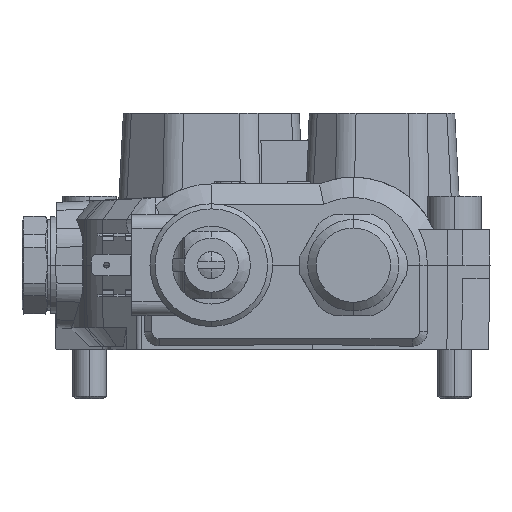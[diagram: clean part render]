
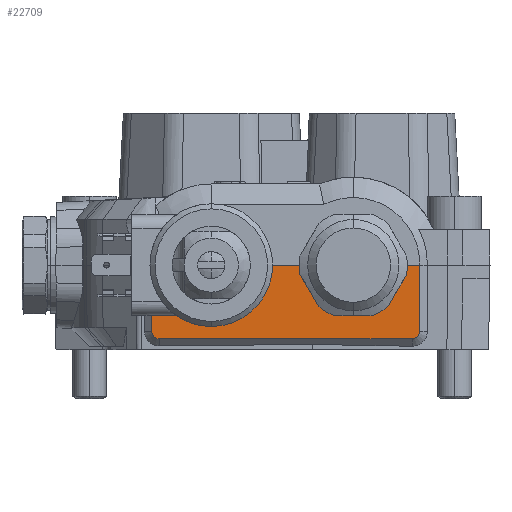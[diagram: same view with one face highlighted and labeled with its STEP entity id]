
A CAD part, left-side view. The second image highlights one B-rep face of the part: STEP entity #22709.
In plain terms, the highlighted planar face has unit normal (-1, 0, -0.018).
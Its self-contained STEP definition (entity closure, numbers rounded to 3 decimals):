
#645 = CARTESIAN_POINT ( 'NONE',  ( -70.72, -29.409, -21.78 ) ) ;
#812 = CARTESIAN_POINT ( 'NONE',  ( -71.1, 47.65, 0. ) ) ;
#2930 = VERTEX_POINT ( 'NONE', #42138 ) ;
#3038 = DIRECTION ( 'NONE',  ( 0.017, 0., -1. ) ) ;
#3102 = VECTOR ( 'NONE', #22369, 1000. ) ;
#4957 = PLANE ( 'NONE',  #14493 ) ;
#6959 = CARTESIAN_POINT ( 'NONE',  ( -70.72, 46.722, -21.78 ) ) ;
#7874 = CARTESIAN_POINT ( 'NONE',  ( -70.759, -31.65, -19.539 ) ) ;
#8212 = VERTEX_POINT ( 'NONE', #38251 ) ;
#8424 = CARTESIAN_POINT ( 'NONE',  ( -71.1, 0., 0. ) ) ;
#9364 = LINE ( 'NONE', #22204, #36858 ) ;
#9416 = VERTEX_POINT ( 'NONE', #812 ) ;
#10596 = VERTEX_POINT ( 'NONE', #28351 ) ;
#12058 = EDGE_CURVE ( 'NONE', #8212, #9416, #22707, .T. ) ;
#13143 = LINE ( 'NONE', #32901, #13657 ) ;
#13657 = VECTOR ( 'NONE', #3038, 1000. ) ;
#13932 = ORIENTED_EDGE ( 'NONE', *, *, #12058, .F. ) ;
#14026 = LINE ( 'NONE', #32228, #3102 ) ;
#14493 = AXIS2_PLACEMENT_3D ( 'NONE', #8424, #31243, #14977 ) ;
#14662 = VERTEX_POINT ( 'NONE', #35663 ) ;
#14977 = DIRECTION ( 'NONE',  ( -0.017, 0., 1. ) ) ;
#15744 = ORIENTED_EDGE ( 'NONE', *, *, #20001, .F. ) ;
#16270 = ORIENTED_EDGE ( 'NONE', *, *, #39449, .F. ) ;
#17358 = EDGE_CURVE ( 'NONE', #2930, #21734, #29144, .T. ) ;
#17744 = EDGE_CURVE ( 'NONE', #10596, #8212, #23335, .T. ) ;
#20001 = EDGE_CURVE ( 'NONE', #21734, #10596, #14026, .T. ) ;
#20029 = CARTESIAN_POINT ( 'NONE',  ( -70.759, 47.65, -19.539 ) ) ;
#20336 = CARTESIAN_POINT ( 'NONE',  ( -70.72, -29.409, -21.78 ) ) ;
#20667 = CARTESIAN_POINT ( 'NONE',  ( -70.72, -30.722, -21.78 ) ) ;
#21734 = VERTEX_POINT ( 'NONE', #20336 ) ;
#22204 = CARTESIAN_POINT ( 'NONE',  ( -71.1, 0., 0. ) ) ;
#22369 = DIRECTION ( 'NONE',  ( 0., 1., 0. ) ) ;
#22707 = LINE ( 'NONE', #42667, #27364 ) ;
#22709 = ADVANCED_FACE ( 'NONE', ( #36715 ), #4957, .T. ) ;
#23210 = ORIENTED_EDGE ( 'NONE', *, *, #17744, .F. ) ;
#23335 =( BOUNDED_CURVE ( )  B_SPLINE_CURVE ( 3, ( #39901, #6959, #30319, #20029 ),
 .UNSPECIFIED., .F., .F. ) 
 B_SPLINE_CURVE_WITH_KNOTS ( ( 4, 4 ),
 ( 0., 1.571 ),
 .UNSPECIFIED. ) 
 CURVE ( )  GEOMETRIC_REPRESENTATION_ITEM ( )  RATIONAL_B_SPLINE_CURVE ( ( 1., 0.805, 0.805, 1. ) ) 
 REPRESENTATION_ITEM ( '' )  );
#26153 = DIRECTION ( 'NONE',  ( -0.017, 0., 1. ) ) ;
#26175 = ORIENTED_EDGE ( 'NONE', *, *, #17358, .F. ) ;
#27364 = VECTOR ( 'NONE', #26153, 1000. ) ;
#28351 = CARTESIAN_POINT ( 'NONE',  ( -70.72, 45.409, -21.78 ) ) ;
#28743 = EDGE_LOOP ( 'NONE', ( #16270, #35851, #13932, #23210, #15744, #26175 ) ) ;
#29144 =( BOUNDED_CURVE ( )  B_SPLINE_CURVE ( 3, ( #7874, #40503, #20667, #645 ),
 .UNSPECIFIED., .F., .F. ) 
 B_SPLINE_CURVE_WITH_KNOTS ( ( 4, 4 ),
 ( 4.712, 6.283 ),
 .UNSPECIFIED. ) 
 CURVE ( )  GEOMETRIC_REPRESENTATION_ITEM ( )  RATIONAL_B_SPLINE_CURVE ( ( 1., 0.805, 0.805, 1. ) ) 
 REPRESENTATION_ITEM ( '' )  );
#30319 = CARTESIAN_POINT ( 'NONE',  ( -70.736, 47.65, -20.852 ) ) ;
#31243 = DIRECTION ( 'NONE',  ( -1., 0., -0.017 ) ) ;
#31523 = EDGE_CURVE ( 'NONE', #14662, #9416, #9364, .T. ) ;
#32228 = CARTESIAN_POINT ( 'NONE',  ( -70.72, 0., -21.78 ) ) ;
#32901 = CARTESIAN_POINT ( 'NONE',  ( -71.09, -31.65, -0.591 ) ) ;
#35663 = CARTESIAN_POINT ( 'NONE',  ( -71.1, -31.65, 0. ) ) ;
#35851 = ORIENTED_EDGE ( 'NONE', *, *, #31523, .T. ) ;
#36715 = FACE_OUTER_BOUND ( 'NONE', #28743, .T. ) ;
#36858 = VECTOR ( 'NONE', #38859, 1000. ) ;
#38251 = CARTESIAN_POINT ( 'NONE',  ( -70.759, 47.65, -19.539 ) ) ;
#38859 = DIRECTION ( 'NONE',  ( 0., 1., 0. ) ) ;
#39449 = EDGE_CURVE ( 'NONE', #14662, #2930, #13143, .T. ) ;
#39901 = CARTESIAN_POINT ( 'NONE',  ( -70.72, 45.409, -21.78 ) ) ;
#40503 = CARTESIAN_POINT ( 'NONE',  ( -70.736, -31.65, -20.852 ) ) ;
#42138 = CARTESIAN_POINT ( 'NONE',  ( -70.759, -31.65, -19.539 ) ) ;
#42667 = CARTESIAN_POINT ( 'NONE',  ( -71.085, 47.65, -0.87 ) ) ;
